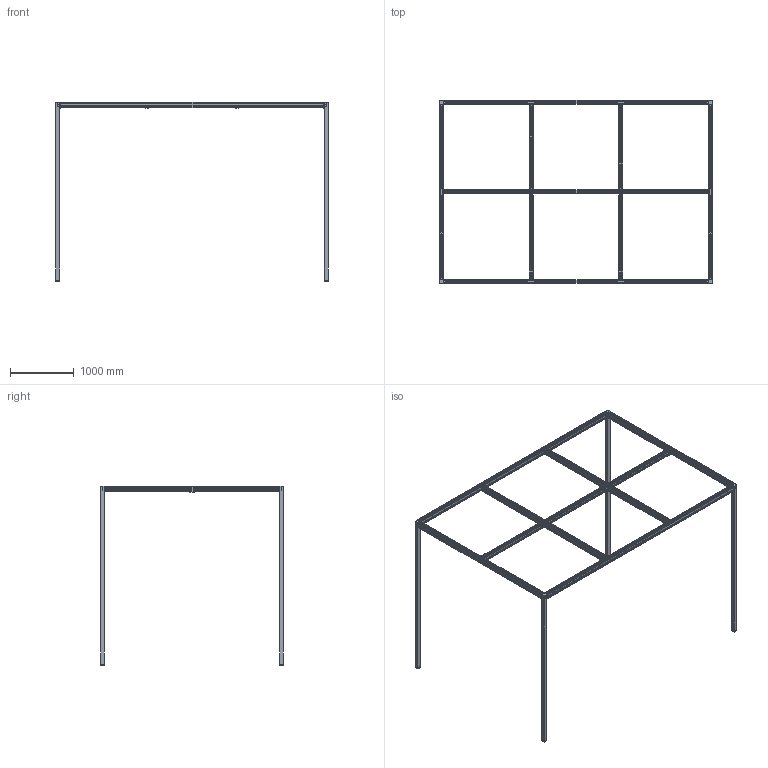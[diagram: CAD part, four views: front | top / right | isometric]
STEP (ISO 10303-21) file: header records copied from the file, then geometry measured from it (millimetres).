
FILE_DESCRIPTION (( 'STEP AP214' ), '1' );
FILE_NAME ('1001985.STEP', '2025-09-12T10:31:04', ( '' ), ( '' ), 'SwSTEP 2.0', 'SolidWorks 2025', '' );
FILE_SCHEMA (( 'AUTOMOTIVE_DESIGN' ));
Length unit declared in the file: millimetre
Products named in the file (1): 1001985
Bounding box: 4262.4 x 2862.4 x 2802 mm (x, y, z)
Volume: 86373611.1 mm3; surface area: 18247967.4 mm2
Topology: 111 solids, 111 shells, 6848 faces, 18887 edges, 12453 vertices
Faces by surface type: plane 4583, cylinder 1793, bspline 288, cone 104, sphere 64, torus 16
Entity records: 235646 total; most frequent: CARTESIAN_POINT 59931, ORIENTED_EDGE 37774, DIRECTION 34387, EDGE_CURVE 18887, VECTOR 14457, LINE 14457, VERTEX_POINT 12453, AXIS2_PLACEMENT_3D 9965
